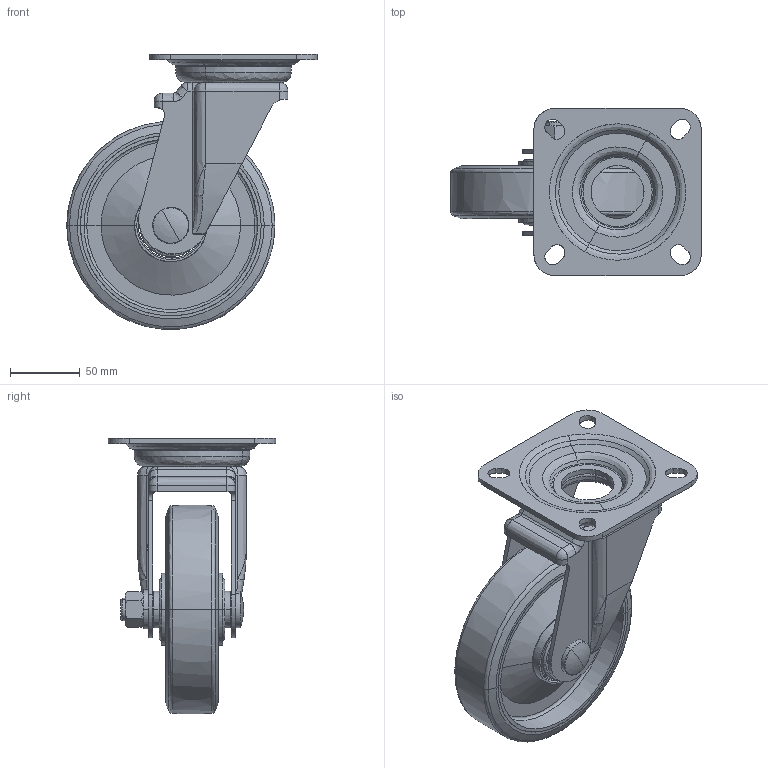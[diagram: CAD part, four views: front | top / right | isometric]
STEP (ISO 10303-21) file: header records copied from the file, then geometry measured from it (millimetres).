
FILE_DESCRIPTION (( 'STEP AP214' ), '1' );
FILE_NAME ('P-150WJ-stp.STEP', '2022-12-26T02:18:37', ( 'sakai' ), ( 'Hewlett-Packard' ), 'SwSTEP 2.0', 'SolidWorks 2010', '' );
FILE_SCHEMA (( 'AUTOMOTIVE_DESIGN' ));
Length unit declared in the file: millimetre
Products named in the file (11): P150WJ-10; P150WJ-15; P150WJ-20; P150WJ-25; P150WJ-30; P150WJ-35; P150WJ-40; P150WJ-50; P150WJ-55; P150WJ-60; P-150WJ-stp
Assembly tree (10 placements, depth 2):
  P-150WJ-stp
    P150WJ-40
    P150WJ-55
    P150WJ-15
    P150WJ-25
    P150WJ-10
    P150WJ-35
    P150WJ-30
    P150WJ-20
    P150WJ-50
    P150WJ-60
Bounding box: 179.61 x 120 x 197.96 mm (x, y, z)
Volume: 485109.9 mm3; surface area: 275465.1 mm2
Topology: 16 solids, 16 shells, 596 faces, 3700 edges, 3110 vertices
Faces by surface type: bspline 460, plane 136
Entity records: 91231 total; most frequent: CARTESIAN_POINT 66095, ORIENTED_EDGE 7360, EDGE_CURVE 3680, VERTEX_POINT 3110, B_SPLINE_CURVE_WITH_KNOTS 2850, DIRECTION 1128, LINE 830, VECTOR 830
